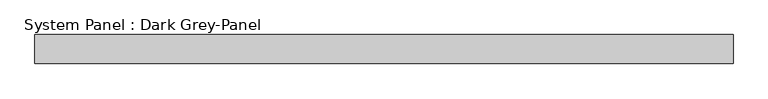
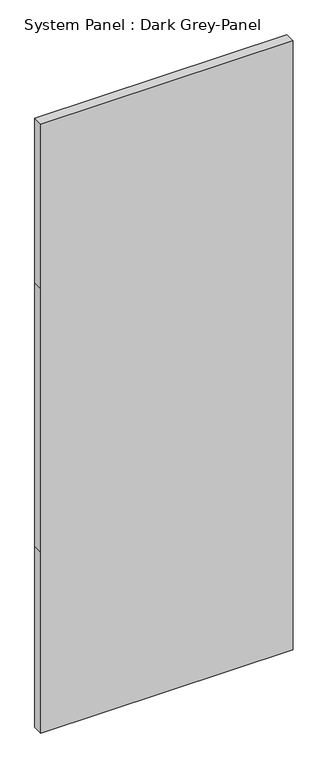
"""IFC4 building model written with IfcOpenShell, lengths in millimetres: plate geometry, System Panel : Dark Grey-Panel."""

from ifc_helpers import new_model, si_unit, frame, origin, place, context, project, spatial, polyline, outline, extrude, source, transform, mapped, element, save


def system_panel_dark_grey_panel_1d6e0621(model_context):
    return source(origin(), model_context, "Body", "SweptSolid", [
        extrude(outline(polyline([(0.0, -725.0), (0.0, 725.0), (1100.0, 725.0), (2700.0, 725.0), (3700.0, 725.0), (3700.0, -725.0), (2700.0, -725.0), (1100.0, -725.0), (0.0, -725.0)])), frame((0.0, -10.5, 0.0), z_axis=(0.0, 1.0, 0.0), x_axis=(0.0, 0.0, 1.0)), (0.0, 0.0, 1.0), 60.0),
    ])


if __name__ == "__main__":
    model = new_model("IFC4")
    model_context = context("Model", 3, world=origin())
    ifc_project = project(units=[si_unit("LENGTHUNIT", "METRE", prefix="MILLI")], contexts=[model_context])
    site = spatial("IfcSite", under=ifc_project)
    building = spatial("IfcBuilding", under=site)
    placement = place(None, origin())
    system_panel_dark_grey_panel_shape = system_panel_dark_grey_panel_1d6e0621(model_context)
    element("IfcPlate", 1, ObjectType="System Panel : Dark Grey-Panel", at=placement, inside=building, context=model_context, shape_type="MappedRepresentation", body=[
        mapped(system_panel_dark_grey_panel_shape, transform((0.0, 0.0, 0.0), x_axis=(1.0, 0.0, 0.0), y_axis=(0.0, 1.0, 0.0), z_axis=(0.0, 0.0, 1.0))),
    ])
    save(model, "model.ifc")
